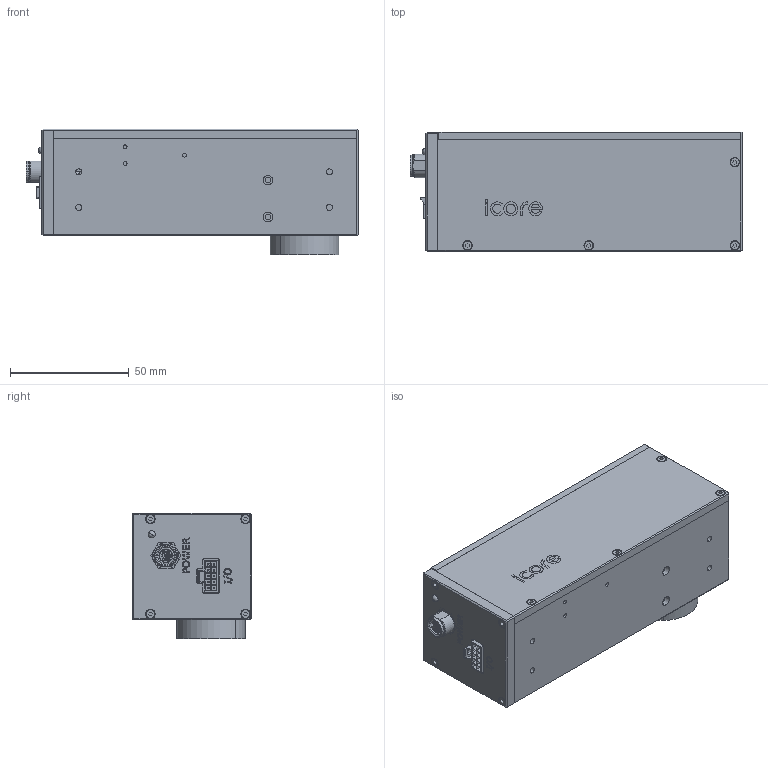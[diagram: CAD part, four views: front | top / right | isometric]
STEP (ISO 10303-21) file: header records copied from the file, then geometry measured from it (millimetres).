
FILE_DESCRIPTION (( 'STEP AP214' ), '1' );
FILE_NAME ('IAFS_ass''y.STEP', '2025-02-03T00:47:57', ( '' ), ( '' ), 'SwSTEP 2.0', 'SolidWorks 2025', '' );
FILE_SCHEMA (( 'AUTOMOTIVE_DESIGN' ));
Length unit declared in the file: millimetre
Products named in the file (17): TTL_Motion_PCB; 08_Cover1; 01_Body; StatusLEDguide; 02-1_LensMount1; 1053141210; MotionPCB; 11_Cover3; step_89013; AF_IO_PCB; AF_IO_PCB_Ass''y; M8AS-06PFFR-SF8001-STP; step_47643; 09_Cover2; M2x6; TTL_Motion_PCB_ass''y; IAFS_ass''y
Assembly tree (29 placements, depth 3):
  IAFS_ass''y
    01_Body
    02-1_LensMount1
    08_Cover1
    09_Cover2
    AF_IO_PCB_Ass''y
      AF_IO_PCB
      M8AS-06PFFR-SF8001-STP
    1053141210
    MotionPCB
    11_Cover3
    step_89013
    step_47643
    M2x6  x14
    StatusLEDguide
    TTL_Motion_PCB_ass''y
      TTL_Motion_PCB
Bounding box: 139.7 x 50 x 53 mm (x, y, z)
Volume: 114922.5 mm3; surface area: 77681.6 mm2
Topology: 28 solids, 28 shells, 1749 faces, 4366 edges, 2773 vertices
Faces by surface type: plane 896, cylinder 483, cone 135, torus 135, bspline 89, sphere 11
Entity records: 51413 total; most frequent: CARTESIAN_POINT 15465, ORIENTED_EDGE 7432, DIRECTION 7158, EDGE_CURVE 3716, AXIS2_PLACEMENT_3D 2480, VERTEX_POINT 2397, VECTOR 2198, LINE 2198
